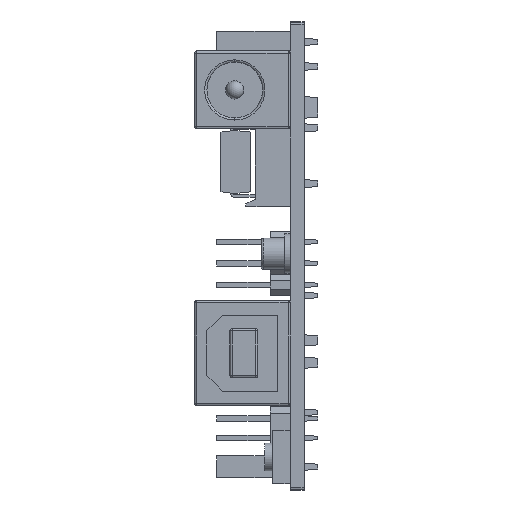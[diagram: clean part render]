
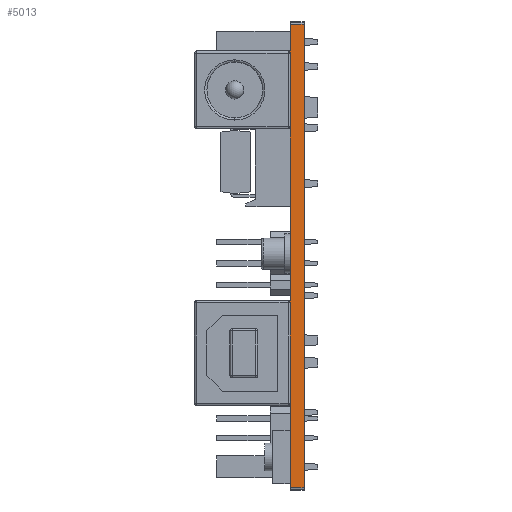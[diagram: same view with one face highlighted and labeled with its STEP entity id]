
A CAD part, left-side view. The second image highlights one B-rep face of the part: STEP entity #5013.
In plain terms, the highlighted planar face has unit normal (-1, 0, 0).
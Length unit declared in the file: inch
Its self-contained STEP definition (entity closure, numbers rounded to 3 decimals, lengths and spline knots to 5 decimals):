
#238 = VERTEX_POINT ( 'NONE', #37972 ) ;
#950 = CARTESIAN_POINT ( 'NONE',  ( 0., 0.0625, -1.7215 ) ) ;
#1675 = VERTEX_POINT ( 'NONE', #59648 ) ;
#2055 = ORIENTED_EDGE ( 'NONE', *, *, #19628, .T. ) ;
#2647 = CIRCLE ( 'NONE', #87458, 0.01 ) ;
#4048 = CARTESIAN_POINT ( 'NONE',  ( 0., 0., -0.01 ) ) ;
#4462 = CARTESIAN_POINT ( 'NONE',  ( 0., 0.0625, -0.13 ) ) ;
#5013 = ADVANCED_FACE ( 'NONE', ( #94193 ), #75205, .F. ) ;
#5657 = CARTESIAN_POINT ( 'NONE',  ( 0., 0.0725, -1.25 ) ) ;
#7410 = VECTOR ( 'NONE', #87718, 39.37008 ) ;
#8586 = DIRECTION ( 'NONE',  ( 0., 0., 1. ) ) ;
#8965 = ORIENTED_EDGE ( 'NONE', *, *, #72603, .T. ) ;
#8977 = AXIS2_PLACEMENT_3D ( 'NONE', #15055, #66775, #22489 ) ;
#10924 = EDGE_LOOP ( 'NONE', ( #35918, #56886, #51048, #29119, #70529, #10926, #8965, #63608, #64345, #63687, #75149, #79408, #2055, #92561, #71827, #27435 ) ) ;
#10926 = ORIENTED_EDGE ( 'NONE', *, *, #72335, .F. ) ;
#12886 = LINE ( 'NONE', #17907, #15224 ) ;
#13206 = LINE ( 'NONE', #37321, #89601 ) ;
#13707 = CIRCLE ( 'NONE', #8977, 0.01 ) ;
#14435 = DIRECTION ( 'NONE',  ( 0., 1., 0. ) ) ;
#14655 = CARTESIAN_POINT ( 'NONE',  ( 0., 0., -2.09 ) ) ;
#15055 = CARTESIAN_POINT ( 'NONE',  ( 0., 0.0725, -0.14 ) ) ;
#15109 = VERTEX_POINT ( 'NONE', #71797 ) ;
#15224 = VECTOR ( 'NONE', #69635, 39.37008 ) ;
#16338 = DIRECTION ( 'NONE',  ( 1., 0., 0. ) ) ;
#16935 = CARTESIAN_POINT ( 'NONE',  ( 0., 0.0625, -0.14 ) ) ;
#17907 = CARTESIAN_POINT ( 'NONE',  ( 0., 0., -0.01 ) ) ;
#19628 = EDGE_CURVE ( 'NONE', #55800, #72712, #31336, .T. ) ;
#19705 = CARTESIAN_POINT ( 'NONE',  ( 0., 0.0725, -1.7115 ) ) ;
#20960 = DIRECTION ( 'NONE',  ( 0., -1., 0. ) ) ;
#21074 = CARTESIAN_POINT ( 'NONE',  ( 0., 0.0625, -0.01 ) ) ;
#22489 = DIRECTION ( 'NONE',  ( 0., 0., -1. ) ) ;
#24880 = EDGE_CURVE ( 'NONE', #48728, #72712, #53658, .T. ) ;
#25927 = EDGE_CURVE ( 'NONE', #48955, #90730, #77759, .T. ) ;
#26014 = DIRECTION ( 'NONE',  ( 1., 0., 0. ) ) ;
#26450 = LINE ( 'NONE', #66128, #28786 ) ;
#26875 = CARTESIAN_POINT ( 'NONE',  ( 0., 0.0725, -0.47 ) ) ;
#26886 = LINE ( 'NONE', #80326, #46568 ) ;
#27159 = DIRECTION ( 'NONE',  ( 0., 0., -1. ) ) ;
#27315 = DIRECTION ( 'NONE',  ( 0., 0., 1. ) ) ;
#27435 = ORIENTED_EDGE ( 'NONE', *, *, #55137, .T. ) ;
#28160 = EDGE_CURVE ( 'NONE', #15109, #64667, #26450, .T. ) ;
#28554 = CARTESIAN_POINT ( 'NONE',  ( 0., 0.0725, -0.48 ) ) ;
#28786 = VECTOR ( 'NONE', #14435, 39.37008 ) ;
#28857 = CARTESIAN_POINT ( 'NONE',  ( 0., 0.0625, -0.01 ) ) ;
#29119 = ORIENTED_EDGE ( 'NONE', *, *, #55597, .F. ) ;
#29301 = EDGE_CURVE ( 'NONE', #55800, #36273, #51445, .T. ) ;
#29430 = LINE ( 'NONE', #34612, #68751 ) ;
#30260 = EDGE_CURVE ( 'NONE', #69702, #48955, #13206, .T. ) ;
#31075 = AXIS2_PLACEMENT_3D ( 'NONE', #26875, #78595, #34292 ) ;
#31336 = CIRCLE ( 'NONE', #37495, 0.01 ) ;
#33572 = DIRECTION ( 'NONE',  ( 0., -1., 0. ) ) ;
#33922 = LINE ( 'NONE', #85629, #73309 ) ;
#34292 = DIRECTION ( 'NONE',  ( 0., 0., -1. ) ) ;
#34612 = CARTESIAN_POINT ( 'NONE',  ( 0., 0.4925, -1.25 ) ) ;
#35918 = ORIENTED_EDGE ( 'NONE', *, *, #78816, .T. ) ;
#36273 = VERTEX_POINT ( 'NONE', #45612 ) ;
#37321 = CARTESIAN_POINT ( 'NONE',  ( 0., 0.0625, -0.01 ) ) ;
#37495 = AXIS2_PLACEMENT_3D ( 'NONE', #19705, #71462, #27159 ) ;
#37972 = CARTESIAN_POINT ( 'NONE',  ( 0., 0.0725, -0.13 ) ) ;
#40292 = EDGE_CURVE ( 'NONE', #70652, #48728, #81134, .T. ) ;
#41763 = VECTOR ( 'NONE', #8586, 39.37008 ) ;
#45612 = CARTESIAN_POINT ( 'NONE',  ( 0., 0.0625, -1.26 ) ) ;
#46568 = VECTOR ( 'NONE', #27315, 39.37008 ) ;
#47463 = DIRECTION ( 'NONE',  ( 0., -1., 0. ) ) ;
#47924 = LINE ( 'NONE', #57839, #69921 ) ;
#48728 = VERTEX_POINT ( 'NONE', #950 ) ;
#48955 = VERTEX_POINT ( 'NONE', #77556 ) ;
#51048 = ORIENTED_EDGE ( 'NONE', *, *, #30260, .F. ) ;
#51352 = VECTOR ( 'NONE', #56206, 39.37008 ) ;
#51445 = LINE ( 'NONE', #21074, #7410 ) ;
#51689 = CARTESIAN_POINT ( 'NONE',  ( 0., 0.0625, -1.7115 ) ) ;
#52255 = EDGE_CURVE ( 'NONE', #238, #86979, #13707, .T. ) ;
#53658 = LINE ( 'NONE', #93063, #51352 ) ;
#55137 = EDGE_CURVE ( 'NONE', #70652, #57571, #47924, .T. ) ;
#55597 = EDGE_CURVE ( 'NONE', #238, #69702, #33922, .T. ) ;
#55800 = VERTEX_POINT ( 'NONE', #51689 ) ;
#56206 = DIRECTION ( 'NONE',  ( 0., 1., 0. ) ) ;
#56886 = ORIENTED_EDGE ( 'NONE', *, *, #25927, .F. ) ;
#57397 = VERTEX_POINT ( 'NONE', #90445 ) ;
#57571 = VERTEX_POINT ( 'NONE', #14655 ) ;
#57839 = CARTESIAN_POINT ( 'NONE',  ( 0., 0.0625, -2.09 ) ) ;
#59648 = CARTESIAN_POINT ( 'NONE',  ( 0., 0.0625, -0.47 ) ) ;
#60254 = EDGE_CURVE ( 'NONE', #83923, #36273, #2647, .T. ) ;
#60291 = CARTESIAN_POINT ( 'NONE',  ( 0., 0.0625, -0.01 ) ) ;
#60615 = CARTESIAN_POINT ( 'NONE',  ( 0., 0.0625, -0.01 ) ) ;
#63393 = AXIS2_PLACEMENT_3D ( 'NONE', #60615, #16338, #68070 ) ;
#63608 = ORIENTED_EDGE ( 'NONE', *, *, #28160, .F. ) ;
#63687 = ORIENTED_EDGE ( 'NONE', *, *, #89796, .F. ) ;
#64345 = ORIENTED_EDGE ( 'NONE', *, *, #79129, .F. ) ;
#64667 = VERTEX_POINT ( 'NONE', #28554 ) ;
#66128 = CARTESIAN_POINT ( 'NONE',  ( 0., 0.4915, -0.48 ) ) ;
#66775 = DIRECTION ( 'NONE',  ( 1., 0., 0. ) ) ;
#68070 = DIRECTION ( 'NONE',  ( 0., 0., -1. ) ) ;
#68751 = VECTOR ( 'NONE', #86363, 39.37008 ) ;
#69450 = CARTESIAN_POINT ( 'NONE',  ( 0., 0.0625, -0.01 ) ) ;
#69635 = DIRECTION ( 'NONE',  ( 0., 0., 1. ) ) ;
#69702 = VERTEX_POINT ( 'NONE', #4462 ) ;
#69921 = VECTOR ( 'NONE', #20960, 39.37008 ) ;
#70299 = CARTESIAN_POINT ( 'NONE',  ( 0., 0.0725, -1.26 ) ) ;
#70529 = ORIENTED_EDGE ( 'NONE', *, *, #52255, .T. ) ;
#70652 = VERTEX_POINT ( 'NONE', #93529 ) ;
#71462 = DIRECTION ( 'NONE',  ( 1., 0., 0. ) ) ;
#71797 = CARTESIAN_POINT ( 'NONE',  ( 0., 0.0625, -0.48 ) ) ;
#71827 = ORIENTED_EDGE ( 'NONE', *, *, #40292, .F. ) ;
#72148 = CARTESIAN_POINT ( 'NONE',  ( 0., 0.0725, -1.7215 ) ) ;
#72335 = EDGE_CURVE ( 'NONE', #1675, #86979, #26886, .T. ) ;
#72603 = EDGE_CURVE ( 'NONE', #1675, #64667, #74175, .T. ) ;
#72712 = VERTEX_POINT ( 'NONE', #72148 ) ;
#73180 = DIRECTION ( 'NONE',  ( 0., 0., 1. ) ) ;
#73309 = VECTOR ( 'NONE', #33572, 39.37008 ) ;
#74175 = CIRCLE ( 'NONE', #31075, 0.01 ) ;
#75149 = ORIENTED_EDGE ( 'NONE', *, *, #60254, .T. ) ;
#75205 = PLANE ( 'NONE',  #63393 ) ;
#75455 = VECTOR ( 'NONE', #47463, 39.37008 ) ;
#77556 = CARTESIAN_POINT ( 'NONE',  ( 0., 0.0625, -0.01 ) ) ;
#77744 = DIRECTION ( 'NONE',  ( 0., 0., -1. ) ) ;
#77759 = LINE ( 'NONE', #69450, #75455 ) ;
#78595 = DIRECTION ( 'NONE',  ( 1., 0., 0. ) ) ;
#78816 = EDGE_CURVE ( 'NONE', #57571, #90730, #12886, .T. ) ;
#79129 = EDGE_CURVE ( 'NONE', #57397, #15109, #88070, .T. ) ;
#79408 = ORIENTED_EDGE ( 'NONE', *, *, #29301, .F. ) ;
#80326 = CARTESIAN_POINT ( 'NONE',  ( 0., 0.0625, -0.01 ) ) ;
#81134 = LINE ( 'NONE', #60291, #41763 ) ;
#81612 = DIRECTION ( 'NONE',  ( 0., 0., 1. ) ) ;
#83923 = VERTEX_POINT ( 'NONE', #5657 ) ;
#85629 = CARTESIAN_POINT ( 'NONE',  ( 0., 0.4915, -0.13 ) ) ;
#86363 = DIRECTION ( 'NONE',  ( 0., -1., 0. ) ) ;
#86979 = VERTEX_POINT ( 'NONE', #16935 ) ;
#87458 = AXIS2_PLACEMENT_3D ( 'NONE', #70299, #26014, #77744 ) ;
#87718 = DIRECTION ( 'NONE',  ( 0., 0., 1. ) ) ;
#88070 = LINE ( 'NONE', #28857, #90393 ) ;
#89601 = VECTOR ( 'NONE', #81612, 39.37008 ) ;
#89796 = EDGE_CURVE ( 'NONE', #83923, #57397, #29430, .T. ) ;
#90393 = VECTOR ( 'NONE', #73180, 39.37008 ) ;
#90445 = CARTESIAN_POINT ( 'NONE',  ( 0., 0.0625, -1.25 ) ) ;
#90730 = VERTEX_POINT ( 'NONE', #4048 ) ;
#92561 = ORIENTED_EDGE ( 'NONE', *, *, #24880, .F. ) ;
#93063 = CARTESIAN_POINT ( 'NONE',  ( 0., 0.4925, -1.7215 ) ) ;
#93529 = CARTESIAN_POINT ( 'NONE',  ( 0., 0.0625, -2.09 ) ) ;
#94193 = FACE_OUTER_BOUND ( 'NONE', #10924, .T. ) ;
